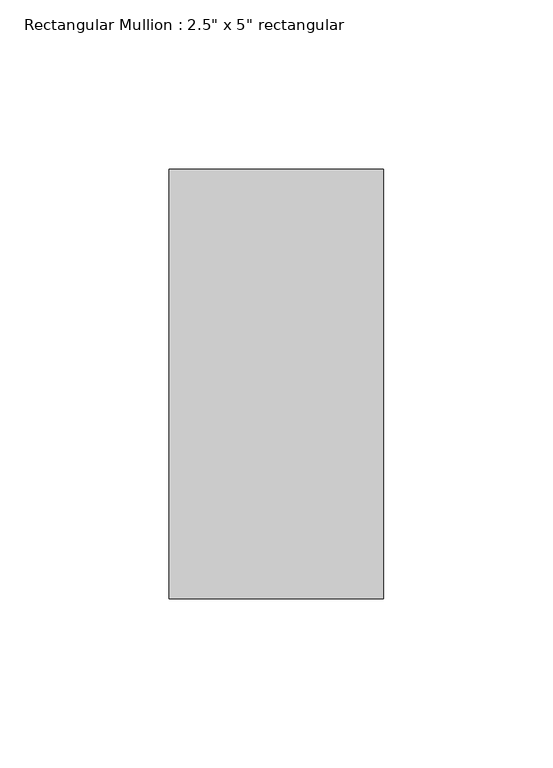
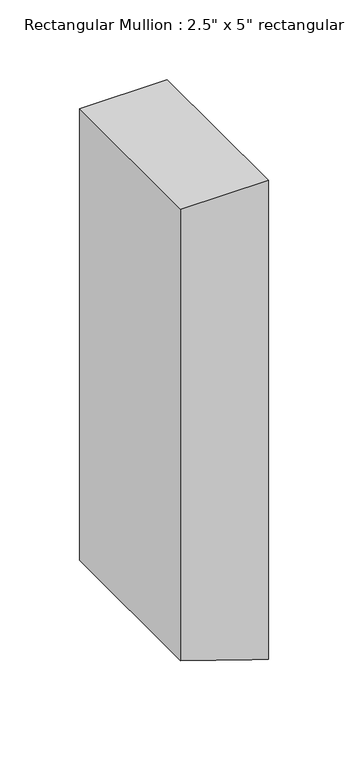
"""IFC4 building model written with IfcOpenShell, lengths in millimetres: member geometry."""

from ifc_helpers import new_model, si_unit, frame, origin, place, context, project, spatial, polyline, outline, extrude, source, transform, mapped, element, save


def member_056e3271(model_context):
    return source(origin(), model_context, "Body", "SweptSolid", [
        extrude(outline(polyline([(0.0, 31.75), (0.0, -31.75), (-345.8151229, -31.75), (-363.0919439, 20.0804631), (-366.9817895, 31.75), (0.0, 31.75)])), frame((0.0, -63.5, 0.0), z_axis=(0.0, 1.0, 0.0), x_axis=(0.0, 0.0, 1.0)), (0.0, 0.0, 1.0), 127.0),
    ])


if __name__ == "__main__":
    model = new_model("IFC4")
    model_context = context("Model", 3, world=origin())
    ifc_project = project(units=[si_unit("LENGTHUNIT", "METRE", prefix="MILLI")], contexts=[model_context])
    site = spatial("IfcSite", under=ifc_project)
    building = spatial("IfcBuilding", under=site)
    placement = place(None, origin())
    member_shape = member_056e3271(model_context)
    element("IfcMember", 1, ObjectType="Rectangular Mullion : 2.5\" x 5\" rectangular", at=placement, inside=building, context=model_context, shape_type="MappedRepresentation", body=[
        mapped(member_shape, transform((0.0, 0.0, 0.0), x_axis=(1.0, 0.0, 0.0), y_axis=(0.0, 1.0, 0.0), z_axis=(0.0, 0.0, 1.0))),
    ])
    save(model, "model.ifc")
